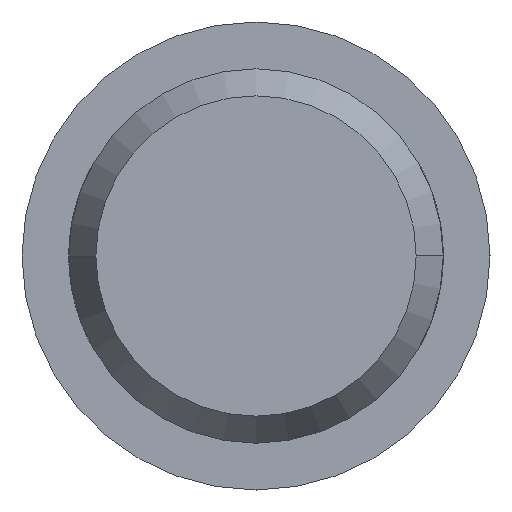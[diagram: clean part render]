
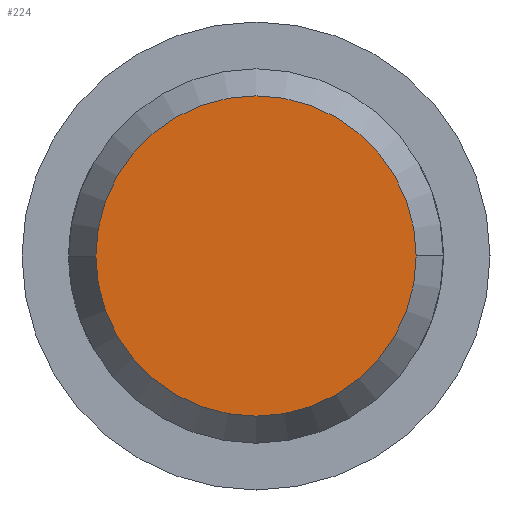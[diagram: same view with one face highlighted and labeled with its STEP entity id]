
A CAD part, left-side view. The second image highlights one B-rep face of the part: STEP entity #224.
In plain terms, the highlighted planar face has unit normal (-1, 0, 0).
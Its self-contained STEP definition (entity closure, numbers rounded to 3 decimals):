
#2 = VERTEX_POINT ( 'NONE', #1878 ) ;
#14 = ORIENTED_EDGE ( 'NONE', *, *, #1551, .T. ) ;
#78 = DIRECTION ( 'NONE',  ( -1., 0., 0. ) ) ;
#179 = CIRCLE ( 'NONE', #2092, 1.711 ) ;
#224 = ADVANCED_FACE ( 'NONE', ( #1826 ), #291, .T. ) ;
#291 = PLANE ( 'NONE',  #1648 ) ;
#619 = DIRECTION ( 'NONE',  ( 0., -1., 0. ) ) ;
#730 = ORIENTED_EDGE ( 'NONE', *, *, #885, .T. ) ;
#739 = CIRCLE ( 'NONE', #2049, 1.711 ) ;
#885 = EDGE_CURVE ( 'NONE', #2, #1906, #179, .T. ) ;
#988 = EDGE_LOOP ( 'NONE', ( #14, #730 ) ) ;
#1055 = CARTESIAN_POINT ( 'NONE',  ( 0., 0., 0. ) ) ;
#1551 = EDGE_CURVE ( 'NONE', #1906, #2, #739, .T. ) ;
#1556 = DIRECTION ( 'NONE',  ( 0., -1., 0. ) ) ;
#1648 = AXIS2_PLACEMENT_3D ( 'NONE', #1055, #2383, #2397 ) ;
#1741 = CARTESIAN_POINT ( 'NONE',  ( 0., 0., 0. ) ) ;
#1826 = FACE_OUTER_BOUND ( 'NONE', #988, .T. ) ;
#1878 = CARTESIAN_POINT ( 'NONE',  ( 0., -1.711, 0. ) ) ;
#1906 = VERTEX_POINT ( 'NONE', #2224 ) ;
#1942 = DIRECTION ( 'NONE',  ( -1., 0., 0. ) ) ;
#2049 = AXIS2_PLACEMENT_3D ( 'NONE', #2324, #78, #619 ) ;
#2092 = AXIS2_PLACEMENT_3D ( 'NONE', #1741, #1942, #1556 ) ;
#2224 = CARTESIAN_POINT ( 'NONE',  ( 0., 1.711, 0. ) ) ;
#2324 = CARTESIAN_POINT ( 'NONE',  ( 0., 0., 0. ) ) ;
#2383 = DIRECTION ( 'NONE',  ( -1., 0., 0. ) ) ;
#2397 = DIRECTION ( 'NONE',  ( 0., -1., 0. ) ) ;
